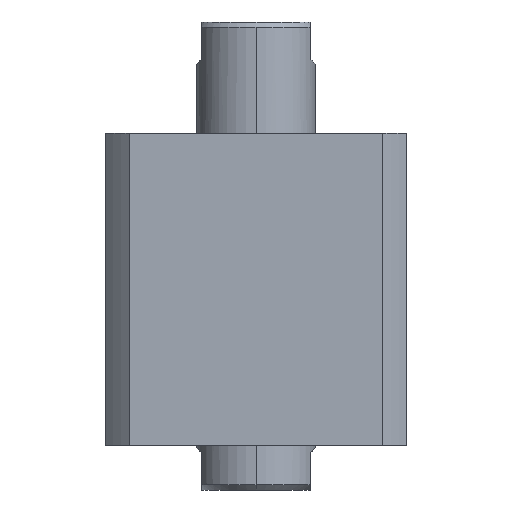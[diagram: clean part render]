
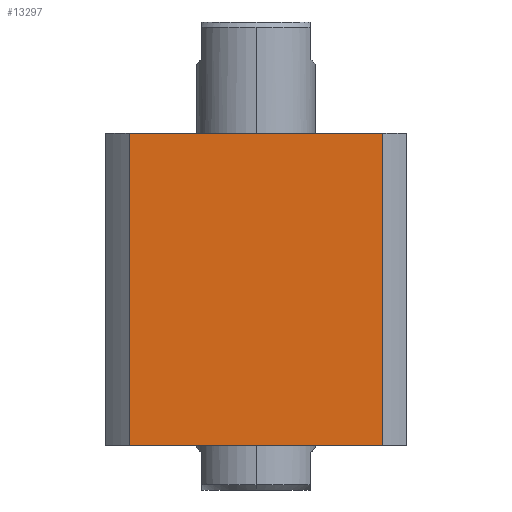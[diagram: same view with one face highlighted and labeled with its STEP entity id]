
A CAD part, front view. The second image highlights one B-rep face of the part: STEP entity #13297.
In plain terms, the highlighted planar face has unit normal (0, -1, 0) as drawn and (1, 0, 0) by its records, which use the part's own axes.
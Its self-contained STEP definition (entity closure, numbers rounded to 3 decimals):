
#1710 = LINE ( 'NONE', #15695, #11394 ) ;
#1869 = VERTEX_POINT ( 'NONE', #13501 ) ;
#2595 = DIRECTION ( 'NONE',  ( -1., 0., 0. ) ) ;
#3550 = VECTOR ( 'NONE', #6278, 1000. ) ;
#4259 = EDGE_CURVE ( 'NONE', #6247, #1869, #6399, .T. ) ;
#5281 = VERTEX_POINT ( 'NONE', #7948 ) ;
#5698 = EDGE_CURVE ( 'NONE', #6247, #15022, #1710, .T. ) ;
#5710 = CARTESIAN_POINT ( 'NONE',  ( 57., -47.971, 0. ) ) ;
#6169 = CARTESIAN_POINT ( 'NONE',  ( 57., 57., 118. ) ) ;
#6247 = VERTEX_POINT ( 'NONE', #5710 ) ;
#6257 = CARTESIAN_POINT ( 'NONE',  ( 57., 47.971, -182. ) ) ;
#6264 = ORIENTED_EDGE ( 'NONE', *, *, #13846, .F. ) ;
#6278 = DIRECTION ( 'NONE',  ( 0., 1., 0. ) ) ;
#6399 = LINE ( 'NONE', #12892, #15308 ) ;
#6696 = CARTESIAN_POINT ( 'NONE',  ( 57., 47.971, 0. ) ) ;
#7236 = DIRECTION ( 'NONE',  ( 0., 1., 0. ) ) ;
#7502 = ORIENTED_EDGE ( 'NONE', *, *, #5698, .T. ) ;
#7948 = CARTESIAN_POINT ( 'NONE',  ( 57., 47.971, 118. ) ) ;
#8172 = VECTOR ( 'NONE', #14719, 1000. ) ;
#9265 = AXIS2_PLACEMENT_3D ( 'NONE', #6169, #2595, #11083 ) ;
#9868 = PLANE ( 'NONE',  #9265 ) ;
#10975 = LINE ( 'NONE', #6257, #8172 ) ;
#11083 = DIRECTION ( 'NONE',  ( 0., -1., 0. ) ) ;
#11087 = CARTESIAN_POINT ( 'NONE',  ( 57., 57., 118. ) ) ;
#11394 = VECTOR ( 'NONE', #7236, 1000. ) ;
#11403 = EDGE_CURVE ( 'NONE', #1869, #5281, #13233, .T. ) ;
#11564 = FACE_OUTER_BOUND ( 'NONE', #13558, .T. ) ;
#11670 = DIRECTION ( 'NONE',  ( 0., 0., 1. ) ) ;
#12741 = ORIENTED_EDGE ( 'NONE', *, *, #4259, .F. ) ;
#12892 = CARTESIAN_POINT ( 'NONE',  ( 57., -47.971, -182. ) ) ;
#13233 = LINE ( 'NONE', #11087, #3550 ) ;
#13297 = ADVANCED_FACE ( 'NONE', ( #11564 ), #9868, .F. ) ;
#13501 = CARTESIAN_POINT ( 'NONE',  ( 57., -47.971, 118. ) ) ;
#13558 = EDGE_LOOP ( 'NONE', ( #12741, #7502, #6264, #14530 ) ) ;
#13846 = EDGE_CURVE ( 'NONE', #5281, #15022, #10975, .T. ) ;
#14530 = ORIENTED_EDGE ( 'NONE', *, *, #11403, .F. ) ;
#14719 = DIRECTION ( 'NONE',  ( 0., 0., -1. ) ) ;
#15022 = VERTEX_POINT ( 'NONE', #6696 ) ;
#15308 = VECTOR ( 'NONE', #11670, 1000. ) ;
#15695 = CARTESIAN_POINT ( 'NONE',  ( 57., 57., 0. ) ) ;
